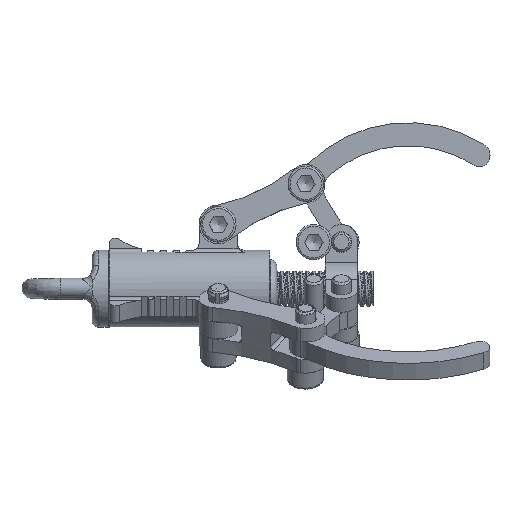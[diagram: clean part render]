
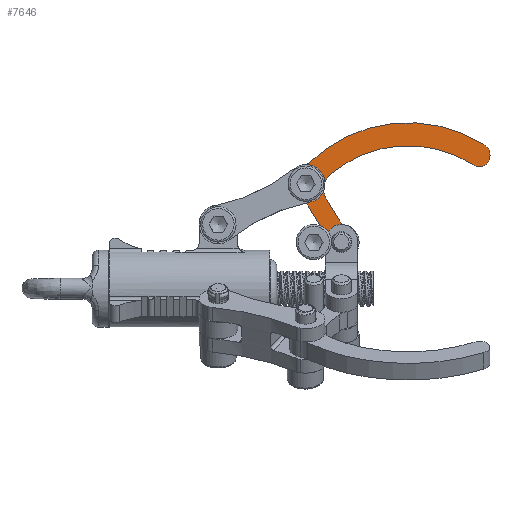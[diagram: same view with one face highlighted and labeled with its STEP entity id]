
A CAD part, left-side view. The second image highlights one B-rep face of the part: STEP entity #7646.
In plain terms, the highlighted planar face has unit normal (-1, 0, 0) as drawn and (0, 0, -1) by its records, which use the part's own axes.
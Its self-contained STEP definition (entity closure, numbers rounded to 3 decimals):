
#876=FACE_BOUND('',#3145,.T.);
#877=FACE_BOUND('',#3146,.T.);
#1016=PLANE('',#8547);
#1703=LINE('',#30569,#2178);
#1705=LINE('',#30578,#2180);
#2178=VECTOR('',#10564,10.);
#2180=VECTOR('',#10574,10.);
#2730=FACE_OUTER_BOUND('',#3144,.T.);
#3144=EDGE_LOOP('',(#7149,#7150,#7151,#7152,#7153,#7154,#7155,#7156,#7157,
#7158,#7159,#7160,#7161));
#3145=EDGE_LOOP('',(#7162));
#3146=EDGE_LOOP('',(#7163));
#3482=CIRCLE('',#8523,3.);
#3484=CIRCLE('',#8526,22.185);
#3486=CIRCLE('',#8529,3.);
#3489=CIRCLE('',#8533,2.5);
#3490=CIRCLE('',#8535,3.);
#3492=CIRCLE('',#8538,2.5);
#3494=CIRCLE('',#8541,3.);
#3497=CIRCLE('',#8546,2.);
#3498=CIRCLE('',#8548,3.);
#3499=CIRCLE('',#8549,18.602);
#3500=CIRCLE('',#8550,2.);
#3501=CIRCLE('',#8551,1.6);
#3502=CIRCLE('',#8552,1.6);
#4147=VERTEX_POINT('',#30520);
#4148=VERTEX_POINT('',#30521);
#4151=VERTEX_POINT('',#30529);
#4153=VERTEX_POINT('',#30535);
#4154=VERTEX_POINT('',#30536);
#4157=VERTEX_POINT('',#30547);
#4158=VERTEX_POINT('',#30548);
#4161=VERTEX_POINT('',#30556);
#4163=VERTEX_POINT('',#30562);
#4166=VERTEX_POINT('',#30573);
#4167=VERTEX_POINT('',#30577);
#4168=VERTEX_POINT('',#30579);
#4169=VERTEX_POINT('',#30581);
#4170=VERTEX_POINT('',#30584);
#4171=VERTEX_POINT('',#30586);
#5145=EDGE_CURVE('',#4147,#4148,#3482,.T.);
#5149=EDGE_CURVE('',#4148,#4151,#3484,.T.);
#5152=EDGE_CURVE('',#4153,#4154,#3486,.T.);
#5157=EDGE_CURVE('',#4154,#4147,#3489,.T.);
#5158=EDGE_CURVE('',#4157,#4158,#3490,.T.);
#5162=EDGE_CURVE('',#4158,#4161,#3492,.T.);
#5165=EDGE_CURVE('',#4161,#4163,#3494,.T.);
#5169=EDGE_CURVE('',#4163,#4153,#1703,.T.);
#5171=EDGE_CURVE('',#4151,#4166,#3497,.T.);
#5173=EDGE_CURVE('',#4167,#4157,#1705,.T.);
#5174=EDGE_CURVE('',#4168,#4167,#3498,.T.);
#5175=EDGE_CURVE('',#4169,#4168,#3499,.T.);
#5176=EDGE_CURVE('',#4166,#4169,#3500,.T.);
#5177=EDGE_CURVE('',#4170,#4170,#3501,.T.);
#5178=EDGE_CURVE('',#4171,#4171,#3502,.T.);
#7149=ORIENTED_EDGE('',*,*,#5171,.F.);
#7150=ORIENTED_EDGE('',*,*,#5149,.F.);
#7151=ORIENTED_EDGE('',*,*,#5145,.F.);
#7152=ORIENTED_EDGE('',*,*,#5157,.F.);
#7153=ORIENTED_EDGE('',*,*,#5152,.F.);
#7154=ORIENTED_EDGE('',*,*,#5169,.F.);
#7155=ORIENTED_EDGE('',*,*,#5165,.F.);
#7156=ORIENTED_EDGE('',*,*,#5162,.F.);
#7157=ORIENTED_EDGE('',*,*,#5158,.F.);
#7158=ORIENTED_EDGE('',*,*,#5173,.F.);
#7159=ORIENTED_EDGE('',*,*,#5174,.F.);
#7160=ORIENTED_EDGE('',*,*,#5175,.F.);
#7161=ORIENTED_EDGE('',*,*,#5176,.F.);
#7162=ORIENTED_EDGE('',*,*,#5177,.T.);
#7163=ORIENTED_EDGE('',*,*,#5178,.T.);
#7646=ADVANCED_FACE('',(#2730,#876,#877),#1016,.F.);
#8523=AXIS2_PLACEMENT_3D('',#30522,#10512,#10513);
#8526=AXIS2_PLACEMENT_3D('',#30530,#10520,#10521);
#8529=AXIS2_PLACEMENT_3D('',#30537,#10527,#10528);
#8533=AXIS2_PLACEMENT_3D('',#30545,#10537,#10538);
#8535=AXIS2_PLACEMENT_3D('',#30549,#10541,#10542);
#8538=AXIS2_PLACEMENT_3D('',#30557,#10549,#10550);
#8541=AXIS2_PLACEMENT_3D('',#30563,#10556,#10557);
#8546=AXIS2_PLACEMENT_3D('',#30574,#10569,#10570);
#8547=AXIS2_PLACEMENT_3D('',#30576,#10572,#10573);
#8548=AXIS2_PLACEMENT_3D('',#30580,#10575,#10576);
#8549=AXIS2_PLACEMENT_3D('',#30582,#10577,#10578);
#8550=AXIS2_PLACEMENT_3D('',#30583,#10579,#10580);
#8551=AXIS2_PLACEMENT_3D('',#30585,#10581,#10582);
#8552=AXIS2_PLACEMENT_3D('',#30587,#10583,#10584);
#10512=DIRECTION('center_axis',(0.,0.,-1.));
#10513=DIRECTION('ref_axis',(1.,-0.008,0.));
#10520=DIRECTION('center_axis',(0.,0.,1.));
#10521=DIRECTION('ref_axis',(-0.924,0.382,0.));
#10527=DIRECTION('center_axis',(0.,0.,-1.));
#10528=DIRECTION('ref_axis',(-0.302,-0.953,0.));
#10537=DIRECTION('center_axis',(0.,0.,1.));
#10538=DIRECTION('ref_axis',(1.,0.,0.));
#10541=DIRECTION('center_axis',(0.,0.,-1.));
#10542=DIRECTION('ref_axis',(0.302,0.953,0.));
#10549=DIRECTION('center_axis',(0.,0.,1.));
#10550=DIRECTION('ref_axis',(1.,0.,0.));
#10556=DIRECTION('center_axis',(0.,0.,-1.));
#10557=DIRECTION('ref_axis',(0.302,-0.953,0.));
#10564=DIRECTION('',(-1.,0.,0.));
#10569=DIRECTION('center_axis',(0.,0.,1.));
#10570=DIRECTION('ref_axis',(-0.447,-0.895,0.));
#10572=DIRECTION('center_axis',(0.,0.,1.));
#10573=DIRECTION('ref_axis',(1.,0.,0.));
#10574=DIRECTION('',(1.,0.,0.));
#10575=DIRECTION('center_axis',(0.,0.,-1.));
#10576=DIRECTION('ref_axis',(-0.648,0.761,0.));
#10577=DIRECTION('center_axis',(0.,0.,-1.));
#10578=DIRECTION('ref_axis',(0.956,-0.295,0.));
#10579=DIRECTION('center_axis',(0.,0.,1.));
#10580=DIRECTION('ref_axis',(0.849,0.529,0.));
#10581=DIRECTION('center_axis',(0.,0.,1.));
#10582=DIRECTION('ref_axis',(1.,0.,0.));
#10583=DIRECTION('center_axis',(0.,0.,1.));
#10584=DIRECTION('ref_axis',(1.,0.,0.));
#30520=CARTESIAN_POINT('',(-13.08,-2.038,0.));
#30521=CARTESIAN_POINT('',(-13.09,-3.375,0.));
#30522=CARTESIAN_POINT('Origin',(-16.01,-2.684,0.));
#30529=CARTESIAN_POINT('',(-1.413,-28.334,0.));
#30530=CARTESIAN_POINT('Origin',(8.498,-8.486,0.));
#30535=CARTESIAN_POINT('',(-7.476,0.,0.));
#30536=CARTESIAN_POINT('',(-9.201,0.545,0.));
#30537=CARTESIAN_POINT('Origin',(-7.476,3.,0.));
#30545=CARTESIAN_POINT('Origin',(-10.638,-1.5,0.));
#30547=CARTESIAN_POINT('',(-3.162,-3.,0.));
#30548=CARTESIAN_POINT('',(-1.437,-3.545,0.));
#30549=CARTESIAN_POINT('Origin',(-3.162,-6.,0.));
#30556=CARTESIAN_POINT('',(-1.437,0.545,0.));
#30557=CARTESIAN_POINT('Origin',(0.,-1.5,0.));
#30562=CARTESIAN_POINT('',(-3.162,0.,0.));
#30563=CARTESIAN_POINT('Origin',(-3.162,3.,0.));
#30569=CARTESIAN_POINT('',(0.,0.,0.));
#30573=CARTESIAN_POINT('',(1.431,-26.985,0.));
#30574=CARTESIAN_POINT('Origin',(-0.519,-26.544,0.));
#30576=CARTESIAN_POINT('Origin',(-5.593,-14.258,0.));
#30577=CARTESIAN_POINT('',(-6.905,-3.,0.));
#30578=CARTESIAN_POINT('',(-9.277,-3.,0.));
#30579=CARTESIAN_POINT('',(-9.866,-5.522,0.));
#30580=CARTESIAN_POINT('Origin',(-6.905,-6.,0.));
#30581=CARTESIAN_POINT('',(0.312,-25.19,0.));
#30582=CARTESIAN_POINT('Origin',(8.498,-8.486,0.));
#30583=CARTESIAN_POINT('Origin',(-0.569,-26.985,0.));
#30584=CARTESIAN_POINT('',(-12.238,-1.5,0.));
#30585=CARTESIAN_POINT('Origin',(-10.638,-1.5,0.));
#30586=CARTESIAN_POINT('',(-1.6,-1.5,0.));
#30587=CARTESIAN_POINT('Origin',(0.,-1.5,0.));
